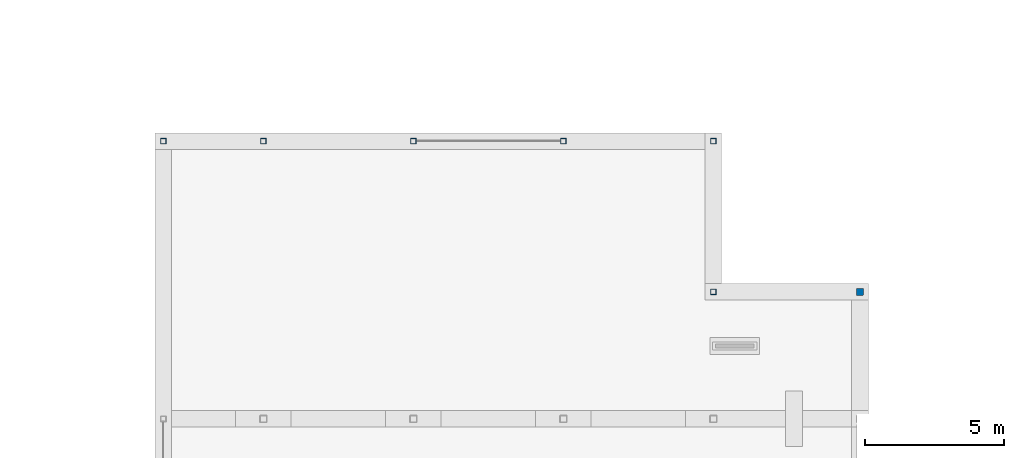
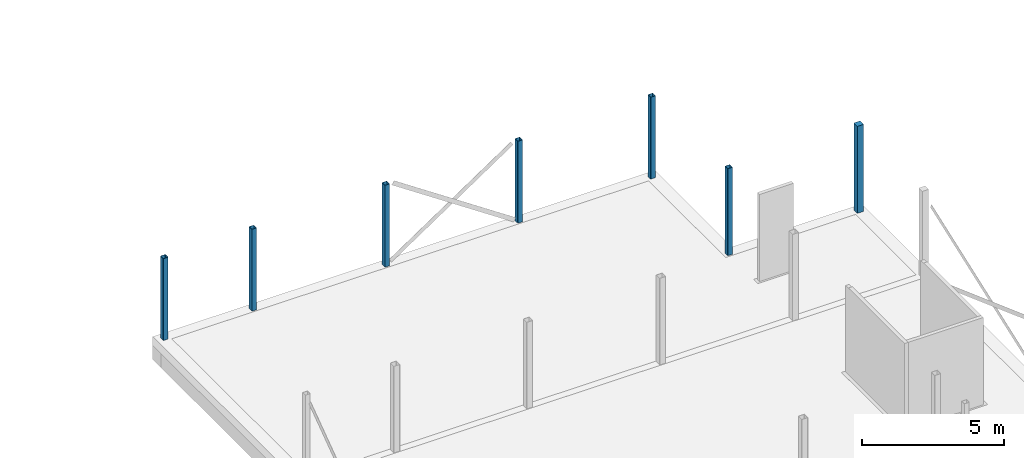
# One storey, part 5 of 12: 7 columns.
"""IFC2X3 building model written with IfcOpenShell, lengths in millimetres."""

from ifc_helpers import new_model, entity, si_unit, converted_unit, derived_unit, direction, frame, frame_2d, origin, place, context, subcontext, project, spatial, polyline, circle_curve, parameter, trimmed, segment, composite_curve, outline, extrude, source, transform, mapped, material, material_list, type_object, type_shapes, element, save


model = new_model("IFC2X3")

# Units and contexts
model_context = context("Model", 3, precision=0.01, world=origin(), true_north=direction((6.123031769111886e-17, 1.0)))
body_context = subcontext(model_context, "Body", "Model", "MODEL_VIEW")
ifc_project = project(units=[si_unit("LENGTHUNIT", "METRE", prefix="MILLI"), si_unit("AREAUNIT", "SQUARE_METRE"), si_unit("VOLUMEUNIT", "CUBIC_METRE"), converted_unit("PLANEANGLEUNIT", "DEGREE", entity("IfcPlaneAngleMeasure", 0.017453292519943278), si_unit("PLANEANGLEUNIT", "RADIAN"), dimensions=[0, 0, 0, 0, 0, 0, 0]), si_unit("MASSUNIT", "GRAM", prefix="KILO"), derived_unit("MASSDENSITYUNIT", [(si_unit("MASSUNIT", "GRAM", prefix="KILO"), 1), (si_unit("LENGTHUNIT", "METRE"), -3)]), derived_unit("IONCONCENTRATIONUNIT", [(si_unit("MASSUNIT", "GRAM", prefix="KILO"), 1), (si_unit("LENGTHUNIT", "METRE"), -3)]), derived_unit("MOMENTOFINERTIAUNIT", [(si_unit("LENGTHUNIT", "METRE"), 4)]), si_unit("TIMEUNIT", "SECOND"), si_unit("FREQUENCYUNIT", "HERTZ"), si_unit("THERMODYNAMICTEMPERATUREUNIT", "DEGREE_CELSIUS"), derived_unit("THERMALTRANSMITTANCEUNIT", [(si_unit("MASSUNIT", "GRAM", prefix="KILO"), 1), (si_unit("THERMODYNAMICTEMPERATUREUNIT", "KELVIN"), -1), (si_unit("TIMEUNIT", "SECOND"), -3)]), derived_unit("THERMALCONDUCTANCEUNIT", [(si_unit("MASSUNIT", "GRAM", prefix="KILO"), 1), (si_unit("THERMODYNAMICTEMPERATUREUNIT", "KELVIN"), -1), (si_unit("TIMEUNIT", "SECOND"), -3), (si_unit("LENGTHUNIT", "METRE"), 1)]), derived_unit("VOLUMETRICFLOWRATEUNIT", [(si_unit("LENGTHUNIT", "METRE", prefix="DECI"), 3), (si_unit("TIMEUNIT", "SECOND"), -1)]), derived_unit("MASSFLOWRATEUNIT", [(si_unit("MASSUNIT", "GRAM", prefix="KILO"), 1), (si_unit("TIMEUNIT", "SECOND"), -1)]), derived_unit("ROTATIONALFREQUENCYUNIT", [(si_unit("TIMEUNIT", "SECOND"), -1)]), si_unit("ELECTRICCURRENTUNIT", "AMPERE"), si_unit("ELECTRICVOLTAGEUNIT", "VOLT"), si_unit("POWERUNIT", "WATT"), si_unit("FORCEUNIT", "NEWTON", prefix="KILO"), si_unit("ILLUMINANCEUNIT", "LUX"), si_unit("LUMINOUSFLUXUNIT", "LUMEN"), si_unit("LUMINOUSINTENSITYUNIT", "CANDELA"), si_unit("ENERGYUNIT", "JOULE"), derived_unit("USERDEFINED", [(si_unit("MASSUNIT", "GRAM", prefix="KILO"), -1), (si_unit("LENGTHUNIT", "METRE"), -2), (si_unit("TIMEUNIT", "SECOND"), 3), (si_unit("LUMINOUSFLUXUNIT", "LUMEN"), 1)]), derived_unit("USERDEFINED", [(si_unit("MASSUNIT", "GRAM", prefix="KILO"), 1), (si_unit("TIMEUNIT", "SECOND"), -3), (si_unit("LENGTHUNIT", "METRE"), 3), (si_unit("ELECTRICCURRENTUNIT", "AMPERE"), -2)]), derived_unit("SOUNDPOWERUNIT", [(si_unit("MASSUNIT", "GRAM", prefix="KILO"), 1), (si_unit("TIMEUNIT", "SECOND"), -3), (si_unit("LENGTHUNIT", "METRE"), 2)]), derived_unit("SOUNDPRESSUREUNIT", [(si_unit("MASSUNIT", "GRAM", prefix="KILO"), 1), (si_unit("LENGTHUNIT", "METRE"), -1), (si_unit("TIMEUNIT", "SECOND"), -2)]), derived_unit("LINEARVELOCITYUNIT", [(si_unit("LENGTHUNIT", "METRE"), 1), (si_unit("TIMEUNIT", "SECOND"), -1)]), si_unit("PRESSUREUNIT", "PASCAL"), derived_unit("USERDEFINED", [(si_unit("MASSUNIT", "GRAM", prefix="KILO"), 1), (si_unit("LENGTHUNIT", "METRE"), -2), (si_unit("TIMEUNIT", "SECOND"), -2)]), derived_unit("LINEARFORCEUNIT", [(si_unit("MASSUNIT", "GRAM", prefix="KILO"), 1), (si_unit("TIMEUNIT", "SECOND"), -2)]), derived_unit("PLANARFORCEUNIT", [(si_unit("MASSUNIT", "GRAM", prefix="KILO"), 1), (si_unit("LENGTHUNIT", "METRE"), -1), (si_unit("TIMEUNIT", "SECOND"), -2)]), derived_unit("SPECIFICHEATCAPACITYUNIT", [(si_unit("THERMODYNAMICTEMPERATUREUNIT", "KELVIN"), -1), (si_unit("LENGTHUNIT", "METRE"), 2), (si_unit("TIMEUNIT", "SECOND"), -2)]), derived_unit("HEATFLUXDENSITYUNIT", [(si_unit("MASSUNIT", "GRAM", prefix="KILO"), 1), (si_unit("TIMEUNIT", "SECOND"), -3)]), derived_unit("HEATINGVALUEUNIT", [(si_unit("LENGTHUNIT", "METRE"), 2), (si_unit("TIMEUNIT", "SECOND"), -2)]), derived_unit("VAPORPERMEABILITYUNIT", [(si_unit("LENGTHUNIT", "METRE"), -1), (si_unit("TIMEUNIT", "SECOND"), 1)]), derived_unit("DYNAMICVISCOSITYUNIT", [(si_unit("MASSUNIT", "GRAM", prefix="KILO"), 1), (si_unit("TIMEUNIT", "SECOND"), -1), (si_unit("LENGTHUNIT", "METRE"), -1)]), derived_unit("THERMALEXPANSIONCOEFFICIENTUNIT", [(si_unit("THERMODYNAMICTEMPERATUREUNIT", "KELVIN"), -1)]), derived_unit("MODULUSOFELASTICITYUNIT", [(si_unit("MASSUNIT", "GRAM", prefix="KILO"), 1), (si_unit("LENGTHUNIT", "METRE"), -1), (si_unit("TIMEUNIT", "SECOND"), -2)]), derived_unit("ISOTHERMALMOISTURECAPACITYUNIT", [(si_unit("MASSUNIT", "GRAM", prefix="KILO"), -1), (si_unit("LENGTHUNIT", "METRE"), 3)]), derived_unit("MOISTUREDIFFUSIVITYUNIT", [(si_unit("TIMEUNIT", "SECOND"), -1), (si_unit("LENGTHUNIT", "METRE"), 2)]), derived_unit("MASSPERLENGTHUNIT", [(si_unit("MASSUNIT", "GRAM", prefix="KILO"), 1), (si_unit("LENGTHUNIT", "METRE"), -1)]), derived_unit("THERMALRESISTANCEUNIT", [(si_unit("MASSUNIT", "GRAM", prefix="KILO"), -1), (si_unit("TIMEUNIT", "SECOND"), 3), (si_unit("THERMODYNAMICTEMPERATUREUNIT", "KELVIN"), 1)]), derived_unit("ACCELERATIONUNIT", [(si_unit("LENGTHUNIT", "METRE"), 1), (si_unit("TIMEUNIT", "SECOND"), -2)]), derived_unit("ANGULARVELOCITYUNIT", [(si_unit("TIMEUNIT", "SECOND"), -1), (si_unit("PLANEANGLEUNIT", "RADIAN"), 1)]), derived_unit("LINEARSTIFFNESSUNIT", [(si_unit("MASSUNIT", "GRAM", prefix="KILO"), 1), (si_unit("TIMEUNIT", "SECOND"), -2)]), derived_unit("WARPINGCONSTANTUNIT", [(si_unit("LENGTHUNIT", "METRE"), 6)]), derived_unit("LINEARMOMENTUNIT", [(si_unit("MASSUNIT", "GRAM", prefix="KILO"), 1), (si_unit("LENGTHUNIT", "METRE"), 1), (si_unit("TIMEUNIT", "SECOND"), -2)]), derived_unit("TORQUEUNIT", [(si_unit("MASSUNIT", "GRAM", prefix="KILO"), 1), (si_unit("LENGTHUNIT", "METRE"), 2), (si_unit("TIMEUNIT", "SECOND"), -2)])], contexts=[model_context])

# Site, building, storey
site_placement = place(None, origin())
site = spatial("IfcSite", under=ifc_project, at=site_placement, Name="Default", CompositionType="ELEMENT")
building_placement = place(site_placement, origin())
building = spatial("IfcBuilding", under=site, at=building_placement, CompositionType="ELEMENT")
storey_placement = place(building_placement, origin())
storey = spatial("IfcBuildingStorey", under=building, at=storey_placement, Name="00 begane grond", CompositionType="ELEMENT", Elevation=0.0)

# Columns
ifc_material_1 = material(Name="VRI_staal")
column_type_1 = type_object("IfcColumnType", Name="28_SC_VRI_kolom_staal_koker:K200x200x8", PredefinedType="COLUMN", material=ifc_material_1)
shared_shape_1 = source(origin(), body_context, "Body", "SweptSolid", [
    extrude(outline(composite_curve([segment(polyline([(-88.0, -100.0), (88.0, -100.0)]), True, "CONTINUOUS"), segment(trimmed(circle_curve(frame_2d((88.0, -88.0), x_axis=(0.0, -1.0)), 12.0), [parameter(359.9999999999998)], [parameter(89.99999999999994)], True, "PARAMETER"), True, "CONTINUOUS"), segment(polyline([(100.0, -88.0), (100.0, 88.0)]), True, "CONTINUOUS"), segment(trimmed(circle_curve(frame_2d((88.0, 88.0), x_axis=(0.0, -1.0)), 12.0), [parameter(90.00000000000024)], [parameter(180.0000000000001)], True, "PARAMETER"), True, "CONTINUOUS"), segment(polyline([(88.0, 100.0), (-88.0, 100.0)]), True, "CONTINUOUS"), segment(trimmed(circle_curve(frame_2d((-88.0, 88.0), x_axis=(0.0, -1.0)), 12.0), [parameter(179.99999999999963)], [parameter(269.9999999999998)], True, "PARAMETER"), True, "CONTINUOUS"), segment(polyline([(-100.0, 88.0), (-100.0, -88.0)]), True, "CONTINUOUS"), segment(trimmed(circle_curve(frame_2d((-88.0, -88.0), x_axis=(0.0, -1.0)), 12.0), [parameter(270.00000000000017)], [parameter(1.0177774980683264e-13)], True, "PARAMETER"), True, "CONTINUOUS")], self_intersect=False), holes=[composite_curve([segment(trimmed(circle_curve(frame_2d((-88.0, 88.0), x_axis=(0.0, -1.0)), 4.0), [parameter(180.0000000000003)], [parameter(270.0000000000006)], True, "PARAMETER"), False, "CONTINUOUS"), segment(polyline([(-88.0, 92.0), (88.0, 92.0)]), True, "CONTINUOUS"), segment(trimmed(circle_curve(frame_2d((88.0, 88.0), x_axis=(0.0, -1.0)), 4.0), [parameter(90.00000000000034)], [parameter(179.99999999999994)], True, "PARAMETER"), False, "CONTINUOUS"), segment(polyline([(92.0, 88.0), (92.0, -88.0)]), True, "CONTINUOUS"), segment(trimmed(circle_curve(frame_2d((88.0, -88.0), x_axis=(0.0, -1.0)), 4.0), [parameter(5.088887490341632e-13)], [parameter(90.00000000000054)], True, "PARAMETER"), False, "CONTINUOUS"), segment(polyline([(88.0, -92.0), (-88.0, -92.0)]), True, "CONTINUOUS"), segment(trimmed(circle_curve(frame_2d((-88.0, -88.0), x_axis=(0.0, -1.0)), 4.0), [parameter(269.9999999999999)], [parameter(0.0)], True, "PARAMETER"), False, "CONTINUOUS"), segment(polyline([(-92.0, -88.0), (-92.0, 88.0)]), True, "CONTINUOUS")], self_intersect=False)]), frame((-5.0, 0.0, -80.0), z_axis=(0.0, 0.0, 1.0), x_axis=(0.0, 1.0, 0.0)), (0.0, 0.0, 1.0), 3515.0),
])
type_shapes(column_type_1, [shared_shape_1])
for number, where in (
    (1, (33405.0, 40000.0, 0.0)),
    (2, (37005.0, 40000.0, 0.0)),
    (3, (42405.0, 40000.0, 0.0)),
    (4, (53205.0, 40000.0, 0.0)),
    (5, (47805.0, 40000.0, 0.0)),
):
    element("IfcColumn", number, at=place(storey_placement, frame(where)), inside=storey, type_object=column_type_1, material=ifc_material_1, Name="28_SC_VRI_kolom_staal_koker:K200x200x8", ObjectType="28_SC_VRI_kolom_staal_koker:K200x200x8", context=body_context, shape_type="MappedRepresentation", body=[
        mapped(shared_shape_1, transform((0.0, 0.0, 0.0), scale=1.0)),
    ])
column_type_2 = type_object("IfcColumnType", Name="28_SC_VRI_kolom_staal_koker:K200x200x8", PredefinedType="COLUMN", material=ifc_material_1)
shared_shape_2 = source(origin(), body_context, "Body", "SweptSolid", [
    extrude(outline(composite_curve([segment(polyline([(-88.0, -100.0), (88.0, -100.0)]), True, "CONTINUOUS"), segment(trimmed(circle_curve(frame_2d((88.0, -88.0), x_axis=(0.0, -1.0)), 12.0), [parameter(359.9999999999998)], [parameter(89.99999999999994)], True, "PARAMETER"), True, "CONTINUOUS"), segment(polyline([(100.0, -88.0), (100.0, 88.0)]), True, "CONTINUOUS"), segment(trimmed(circle_curve(frame_2d((88.0, 88.0), x_axis=(0.0, -1.0)), 12.0), [parameter(90.00000000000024)], [parameter(180.0000000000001)], True, "PARAMETER"), True, "CONTINUOUS"), segment(polyline([(88.0, 100.0), (-88.0, 100.0)]), True, "CONTINUOUS"), segment(trimmed(circle_curve(frame_2d((-88.0, 88.0), x_axis=(0.0, -1.0)), 12.0), [parameter(179.99999999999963)], [parameter(269.9999999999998)], True, "PARAMETER"), True, "CONTINUOUS"), segment(polyline([(-100.0, 88.0), (-100.0, -88.0)]), True, "CONTINUOUS"), segment(trimmed(circle_curve(frame_2d((-88.0, -88.0), x_axis=(0.0, -1.0)), 12.0), [parameter(270.00000000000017)], [parameter(1.0177774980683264e-13)], True, "PARAMETER"), True, "CONTINUOUS")], self_intersect=False), holes=[composite_curve([segment(trimmed(circle_curve(frame_2d((-88.0, 88.0), x_axis=(0.0, -1.0)), 4.0), [parameter(180.0000000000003)], [parameter(270.0000000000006)], True, "PARAMETER"), False, "CONTINUOUS"), segment(polyline([(-88.0, 92.0), (88.0, 92.0)]), True, "CONTINUOUS"), segment(trimmed(circle_curve(frame_2d((88.0, 88.0), x_axis=(0.0, -1.0)), 4.0), [parameter(90.00000000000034)], [parameter(179.99999999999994)], True, "PARAMETER"), False, "CONTINUOUS"), segment(polyline([(92.0, 88.0), (92.0, -88.0)]), True, "CONTINUOUS"), segment(trimmed(circle_curve(frame_2d((88.0, -88.0), x_axis=(0.0, -1.0)), 4.0), [parameter(5.088887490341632e-13)], [parameter(90.00000000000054)], True, "PARAMETER"), False, "CONTINUOUS"), segment(polyline([(88.0, -92.0), (-88.0, -92.0)]), True, "CONTINUOUS"), segment(trimmed(circle_curve(frame_2d((-88.0, -88.0), x_axis=(0.0, -1.0)), 4.0), [parameter(269.9999999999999)], [parameter(0.0)], True, "PARAMETER"), False, "CONTINUOUS"), segment(polyline([(-92.0, -88.0), (-92.0, 88.0)]), True, "CONTINUOUS")], self_intersect=False)]), frame((-5.0, 0.0, -80.0), z_axis=(0.0, 0.0, 1.0), x_axis=(0.0, 1.0, 0.0)), (0.0, 0.0, 1.0), 3735.0),
])
type_shapes(column_type_2, [shared_shape_2])
column_1_placement = place(storey_placement, frame((53205.0, 34575.0, 0.0)))
element("IfcColumn", 6, at=column_1_placement, inside=storey, type_object=column_type_2, material=ifc_material_1, Name="28_SC_VRI_kolom_staal_koker:K200x200x8", ObjectType="28_SC_VRI_kolom_staal_koker:K200x200x8", context=body_context, shape_type="MappedRepresentation", body=[
    mapped(shared_shape_2, transform((0.0, 0.0, 0.0), scale=1.0)),
])
ifc_material_2 = material(Name="VRI_beton_ihwg")
ifc_material_list = material_list([ifc_material_2, ifc_material_1])
column_type_3 = type_object("IfcColumnType", Name="28_SC_VRI_kolom_staal_betongevuld_koker:K250x250x8_gevuld", PredefinedType="COLUMN", material=ifc_material_list)
shared_shape_3 = source(origin(), body_context, "Body", "SweptSolid", [
    extrude(outline(composite_curve([segment(polyline([(-113.0, -117.0), (113.0, -117.0)]), True, "CONTINUOUS"), segment(trimmed(circle_curve(frame_2d((113.0, -113.0), x_axis=(-1.0, 0.0)), 4.0), [parameter(89.99999999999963)], [parameter(179.9999999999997)], True, "PARAMETER"), True, "CONTINUOUS"), segment(polyline([(117.0, -113.0), (117.0, 113.0)]), True, "CONTINUOUS"), segment(trimmed(circle_curve(frame_2d((113.0, 113.0), x_axis=(-1.0, 0.0)), 4.0), [parameter(180.00000000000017)], [parameter(269.99999999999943)], True, "PARAMETER"), True, "CONTINUOUS"), segment(polyline([(113.0, 117.0), (-113.0, 117.0)]), True, "CONTINUOUS"), segment(trimmed(circle_curve(frame_2d((-113.0, 113.0), x_axis=(-1.0, 0.0)), 4.0), [parameter(269.99999999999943)], [parameter(359.9999999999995)], True, "PARAMETER"), True, "CONTINUOUS"), segment(polyline([(-117.0, 113.0), (-117.0, -113.0)]), True, "CONTINUOUS"), segment(trimmed(circle_curve(frame_2d((-113.0, -113.0), x_axis=(-1.0, 0.0)), 4.0), [parameter(359.9999999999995)], [parameter(89.99999999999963)], True, "PARAMETER"), True, "CONTINUOUS")], self_intersect=False)), frame((-5.0, 0.0, -80.0), z_axis=(0.0, 0.0, 1.0), x_axis=(-1.0, 0.0, 0.0)), (0.0, 0.0, 1.0), 3735.0),
    extrude(outline(composite_curve([segment(polyline([(-113.0, -125.0), (113.0, -125.0)]), True, "CONTINUOUS"), segment(trimmed(circle_curve(frame_2d((113.0, -113.0), x_axis=(0.0, -1.0)), 12.0), [parameter(359.99999999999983)], [parameter(89.99999999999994)], True, "PARAMETER"), True, "CONTINUOUS"), segment(polyline([(125.0, -113.0), (125.0, 113.0)]), True, "CONTINUOUS"), segment(trimmed(circle_curve(frame_2d((113.0, 113.0), x_axis=(0.0, -1.0)), 12.0), [parameter(90.00000000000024)], [parameter(180.00000000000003)], True, "PARAMETER"), True, "CONTINUOUS"), segment(polyline([(113.0, 125.0), (-113.0, 125.0)]), True, "CONTINUOUS"), segment(trimmed(circle_curve(frame_2d((-113.0, 113.0), x_axis=(0.0, -1.0)), 12.0), [parameter(179.99999999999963)], [parameter(269.9999999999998)], True, "PARAMETER"), True, "CONTINUOUS"), segment(polyline([(-125.0, 113.0), (-125.0, -113.0)]), True, "CONTINUOUS"), segment(trimmed(circle_curve(frame_2d((-113.0, -113.0), x_axis=(0.0, -1.0)), 12.0), [parameter(270.00000000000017)], [parameter(1.0177774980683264e-13)], True, "PARAMETER"), True, "CONTINUOUS")], self_intersect=False), holes=[composite_curve([segment(trimmed(circle_curve(frame_2d((-113.0, 113.0), x_axis=(0.0, -1.0)), 4.0), [parameter(180.0000000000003)], [parameter(270.0000000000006)], True, "PARAMETER"), False, "CONTINUOUS"), segment(polyline([(-113.0, 117.0), (113.0, 117.0)]), True, "CONTINUOUS"), segment(trimmed(circle_curve(frame_2d((113.0, 113.0), x_axis=(0.0, -1.0)), 4.0), [parameter(90.00000000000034)], [parameter(179.9999999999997)], True, "PARAMETER"), False, "CONTINUOUS"), segment(polyline([(117.0, 113.0), (117.0, -113.0)]), True, "CONTINUOUS"), segment(trimmed(circle_curve(frame_2d((113.0, -113.0), x_axis=(0.0, -1.0)), 4.0), [parameter(5.088887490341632e-13)], [parameter(90.00000000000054)], True, "PARAMETER"), False, "CONTINUOUS"), segment(polyline([(113.0, -117.0), (-113.0, -117.0)]), True, "CONTINUOUS"), segment(trimmed(circle_curve(frame_2d((-113.0, -113.0), x_axis=(0.0, -1.0)), 4.0), [parameter(269.9999999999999)], [parameter(0.0)], True, "PARAMETER"), False, "CONTINUOUS"), segment(polyline([(-117.0, -113.0), (-117.0, 113.0)]), True, "CONTINUOUS")], self_intersect=False)]), frame((-5.0, 0.0, -80.0), z_axis=(0.0, 0.0, 1.0), x_axis=(0.0, 1.0, 0.0)), (0.0, 0.0, 1.0), 3735.0),
])
type_shapes(column_type_3, [shared_shape_3])
column_2_placement = place(storey_placement, frame((58480.0, 34575.0, 0.0)))
element("IfcColumn", 7, at=column_2_placement, inside=storey, type_object=column_type_3, material=ifc_material_list, Name="28_SC_VRI_kolom_staal_betongevuld_koker:K250x250x8_gevuld", ObjectType="28_SC_VRI_kolom_staal_betongevuld_koker:K250x250x8_gevuld", context=body_context, shape_type="MappedRepresentation", body=[
    mapped(shared_shape_3, transform((0.0, 0.0, 0.0), scale=1.0)),
])

save(model, "model.ifc")
